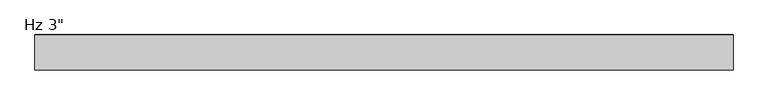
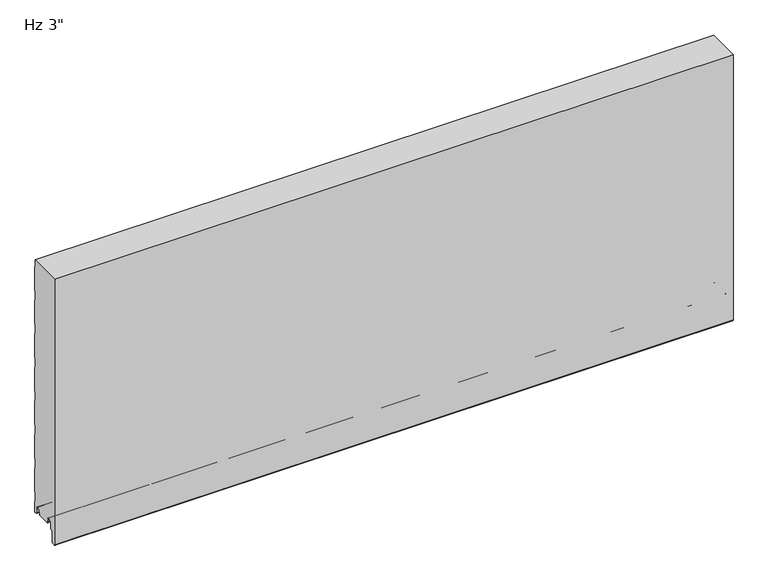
"""IFC4 building model written with IfcOpenShell, lengths in millimetres: plate geometry."""

from ifc_helpers import new_model, si_unit, frame, origin, place, context, project, spatial, polyline, circle_curve, source, transform, mapped, element, save
from ifc_brep_helpers import plane_surface, cylinder_surface, revolved_surface, advanced_brep


def plate_534590c8(model_context):
    return source(origin(), model_context, "Body", "AdvancedBrep", [
        advanced_brep(
        [(-730.0, -47.8708959, 1.0316999), (-730.0, -46.7014212, 2.2328239), (-730.0, -46.7014212, 5.9912173), (-730.0, -48.0999001, 5.9912173), (-730.0, -48.0999001, 8.6903283), (-730.0, -51.4498954, 12.0403236), (-730.0, -55.8498866, 12.0403236), (-730.0, -59.1998819, 8.6903283), (-730.0, -59.1998819, -3.1205608), (-730.0, -59.6977988, -4.3226385), (-730.0, -65.1998699, -9.8247096), (-730.0, -65.1998699, -31.9198392), (-730.0, -67.4184719, -34.5765709), (-730.0, -72.4002927, -35.0125699), (-730.0, -75.1946177, -32.4521176), (-730.0, -75.2000209, 571.2), (-730.0, -2.2002516, 571.2), (-730.0, -2.2002516, 555.8186019), (-730.0, -1.0000209, 554.4329689), (-730.0, -1.0000209, 500.3795535), (-730.0, -2.2002516, 498.9939206), (-730.0, -2.2002516, 479.6187543), (-730.0, -1.0000209, 478.2331213), (-730.0, -1.0000209, 424.1797059), (-730.0, -2.2002516, 422.794073), (-730.0, -2.2002516, 403.4189067), (-730.0, -1.0000209, 402.0332737), (-730.0, -1.0000209, 347.9798583), (-730.0, -2.2002516, 346.5942254), (-730.0, -2.2002516, 327.2190591), (-730.0, -1.0000209, 325.8334261), (-730.0, -1.0000209, 271.7800107), (-730.0, -2.2002516, 270.3943778), (-730.0, -2.2002516, 251.0192115), (-730.0, -1.0000209, 249.6335785), (-730.0, -1.0000209, 195.5801631), (-730.0, -2.2002516, 194.1945302), (-730.0, -2.2002516, 174.8193639), (-730.0, -1.0000209, 173.4337309), (-730.0, -1.0000209, 119.3803155), (-730.0, -2.2002516, 117.9946826), (-730.0, -2.2002516, 98.6195163), (-730.0, -1.0000209, 97.2338833), (-730.0, -1.0000209, 43.1804679), (-730.0, -2.2002516, 41.794835), (-730.0, -2.2002516, 22.4196687), (-730.0, -1.0000126, 21.034026), (-730.0, -1.0000126, -3.4662506), (-730.0, -5.2315599, -3.4662506), (-730.0, -7.001554, -1.6962564), (-730.0, -7.001554, 8.7237222), (-730.0, -10.3015499, 12.023718), (-730.0, -14.7015411, 12.023718), (-730.0, -18.0015368, 8.7237223), (-730.0, -18.0015368, 6.0315125), (-730.0, -19.0015314, 6.0315125), (-730.0, -19.0015314, 2.0313089), (-730.0, -18.0015401, 1.0313117), (-730.0, -19.0328517, 0.0), (-730.0, -46.839196, 0.0), (730.0, -47.8708959, 1.0316999), (730.0, -46.839196, 0.0), (730.0, -19.0328517, 0.0), (730.0, -18.0015401, 1.0313117), (730.0, -19.0015314, 2.0313089), (730.0, -19.0015314, 6.0315125), (730.0, -18.0015368, 6.0315125), (730.0, -18.0015368, 8.7237223), (730.0, -14.7015411, 12.023718), (730.0, -10.3015499, 12.023718), (730.0, -7.001554, 8.7237222), (730.0, -7.001554, -1.6962564), (730.0, -5.2315599, -3.4662506), (730.0, -1.0000126, -3.4662506), (730.0, -1.0000126, 21.034026), (730.0, -2.2002516, 22.4196687), (730.0, -2.2002516, 41.794835), (730.0, -1.0000209, 43.1804679), (730.0, -1.0000209, 97.2338833), (730.0, -2.2002516, 98.6195163), (730.0, -2.2002516, 117.9946826), (730.0, -1.0000209, 119.3803155), (730.0, -1.0000209, 173.4337309), (730.0, -2.2002516, 174.8193639), (730.0, -2.2002516, 194.1945302), (730.0, -1.0000209, 195.5801631), (730.0, -1.0000209, 249.6335785), (730.0, -2.2002516, 251.0192115), (730.0, -2.2002516, 270.3943778), (730.0, -1.0000209, 271.7800107), (730.0, -1.0000209, 325.8334261), (730.0, -2.2002516, 327.2190591), (730.0, -2.2002516, 346.5942254), (730.0, -1.0000209, 347.9798583), (730.0, -1.0000209, 402.0332737), (730.0, -2.2002516, 403.4189067), (730.0, -2.2002516, 422.794073), (730.0, -1.0000209, 424.1797059), (730.0, -1.0000209, 478.2331213), (730.0, -2.2002516, 479.6187543), (730.0, -2.2002516, 498.9939206), (730.0, -1.0000209, 500.3795535), (730.0, -1.0000209, 554.4329689), (730.0, -2.2002516, 555.8186019), (730.0, -2.2002516, 571.2), (730.0, -75.2000209, 571.2), (730.0, -75.2000209, -32.4521176), (730.0, -72.4002927, -35.0125699), (730.0, -67.4184719, -34.5765709), (730.0, -65.1998699, -31.9198392), (730.0, -65.1998699, -9.8247096), (730.0, -59.6977988, -4.3226385), (730.0, -59.1998819, -3.1205608), (730.0, -59.1998819, 8.6903283), (730.0, -55.8498866, 12.0403236), (730.0, -51.4498954, 12.0403236), (730.0, -48.0999001, 8.6903283), (730.0, -48.0999001, 5.9912173), (730.0, -46.7014212, 5.9912173), (730.0, -46.7014212, 2.2328239)],
        [
            (0, 1, circle_curve(frame((-730.0, -47.9014178, 2.2313092), z_axis=(1.0, 0.0, 0.0), x_axis=(0.0, 0.0, -1.0)), 1.1999976)),
            (1, 2),
            (2, 3),
            (3, 4),
            (4, 5, circle_curve(frame((-730.0, -51.4498954, 8.6903283), z_axis=(1.0, 0.0, 0.0), x_axis=(0.0, 0.0, -1.0)), 3.3499953)),
            (5, 6),
            (6, 7, circle_curve(frame((-730.0, -55.8498866, 8.6903283), z_axis=(1.0, 0.0, 0.0), x_axis=(0.0, 0.0, -1.0)), 3.3499953)),
            (7, 8),
            (8, 9, circle_curve(frame((-730.0, -60.8998765, -3.1205608), z_axis=(-1.0, 0.0, 0.0), x_axis=(0.0, 0.0, -1.0)), 1.6999946)),
            (9, 10),
            (10, 11),
            (11, 12, circle_curve(frame((-730.0, -67.8998625, -31.9198392), z_axis=(-1.0, 0.0, 0.0), x_axis=(0.0, 0.0, -1.0)), 2.6999926)),
            (12, 13),
            (13, 14, circle_curve(frame((-730.0, -72.6243784, -32.4521176), z_axis=(-1.0, 0.0, 0.0), x_axis=(0.0, 0.0, -1.0)), 2.5702393)),
            (14, 15),
            (15, 16),
            (16, 17),
            (17, 18),
            (18, 19),
            (19, 20),
            (20, 21),
            (21, 22),
            (22, 23),
            (23, 24),
            (24, 25),
            (25, 26),
            (26, 27),
            (27, 28),
            (28, 29),
            (29, 30),
            (30, 31),
            (31, 32),
            (32, 33),
            (33, 34),
            (34, 35),
            (35, 36),
            (36, 37),
            (37, 38),
            (38, 39),
            (39, 40),
            (40, 41),
            (41, 42),
            (42, 43),
            (43, 44),
            (44, 45),
            (45, 46),
            (46, 47),
            (47, 48),
            (48, 49, circle_curve(frame((-730.0, -5.2315599, -1.6962564), z_axis=(-1.0, 0.0, 0.0), x_axis=(0.0, 0.0, 1.0)), 1.7699942)),
            (49, 50),
            (50, 51, circle_curve(frame((-730.0, -10.3015499, 8.7237222), z_axis=(1.0, 0.0, 0.0), x_axis=(0.0, 0.0, 1.0)), 3.2999959)),
            (51, 52),
            (52, 53, circle_curve(frame((-730.0, -14.7015411, 8.7237223), z_axis=(1.0, 0.0, 0.0), x_axis=(0.0, 0.0, 1.0)), 3.2999957)),
            (53, 54),
            (54, 55),
            (55, 56),
            (56, 57, circle_curve(frame((-730.0, -18.0015342, 2.0313089), z_axis=(1.0, 0.0, 0.0), x_axis=(0.0, 0.0, 1.0)), 0.9999972)),
            (57, 58),
            (58, 59),
            (59, 0),
            (60, 61),
            (61, 62),
            (62, 63),
            (63, 64, circle_curve(frame((730.0, -18.0015342, 2.0313089), z_axis=(-1.0, 0.0, 0.0), x_axis=(0.0, 0.0, 1.0)), 0.9999972)),
            (64, 65),
            (65, 66),
            (66, 67),
            (67, 68, circle_curve(frame((730.0, -14.7015411, 8.7237223), z_axis=(-1.0, 0.0, 0.0), x_axis=(0.0, 0.0, 1.0)), 3.2999957)),
            (68, 69),
            (69, 70, circle_curve(frame((730.0, -10.3015499, 8.7237222), z_axis=(-1.0, 0.0, 0.0), x_axis=(0.0, 0.0, 1.0)), 3.2999959)),
            (70, 71),
            (71, 72, circle_curve(frame((730.0, -5.2315599, -1.6962564), z_axis=(1.0, 0.0, 0.0), x_axis=(0.0, 0.0, 1.0)), 1.7699942)),
            (72, 73),
            (73, 74),
            (74, 75),
            (75, 76),
            (76, 77),
            (77, 78),
            (78, 79),
            (79, 80),
            (80, 81),
            (81, 82),
            (82, 83),
            (83, 84),
            (84, 85),
            (85, 86),
            (86, 87),
            (87, 88),
            (88, 89),
            (89, 90),
            (90, 91),
            (91, 92),
            (92, 93),
            (93, 94),
            (94, 95),
            (95, 96),
            (96, 97),
            (97, 98),
            (98, 99),
            (99, 100),
            (100, 101),
            (101, 102),
            (102, 103),
            (103, 104),
            (104, 105),
            (105, 106),
            (106, 107, circle_curve(frame((730.0, -72.6243784, -32.4521176), z_axis=(1.0, 0.0, 0.0), x_axis=(0.0, 0.0, -1.0)), 2.5702393)),
            (107, 108),
            (108, 109, circle_curve(frame((730.0, -67.8998625, -31.9198392), z_axis=(1.0, 0.0, 0.0), x_axis=(0.0, 0.0, -1.0)), 2.6999926)),
            (109, 110),
            (110, 111),
            (111, 112, circle_curve(frame((730.0, -60.8998765, -3.1205608), z_axis=(1.0, 0.0, 0.0), x_axis=(0.0, 0.0, -1.0)), 1.6999946)),
            (112, 113),
            (113, 114, circle_curve(frame((730.0, -55.8498866, 8.6903283), z_axis=(-1.0, 0.0, 0.0), x_axis=(0.0, 0.0, -1.0)), 3.3499953)),
            (114, 115),
            (115, 116, circle_curve(frame((730.0, -51.4498954, 8.6903283), z_axis=(-1.0, 0.0, 0.0), x_axis=(0.0, 0.0, -1.0)), 3.3499953)),
            (116, 117),
            (117, 118),
            (118, 119),
            (119, 60, circle_curve(frame((730.0, -47.9014178, 2.2313092), z_axis=(-1.0, 0.0, 0.0), x_axis=(0.0, 0.0, -1.0)), 1.1999976)),
            (59, 61),
            (60, 0),
            (58, 62),
            (105, 15),
            (14, 106),
            (13, 107),
            (12, 108),
            (11, 109),
            (10, 110),
            (9, 111),
            (8, 112),
            (7, 113),
            (6, 114),
            (5, 115),
            (4, 116),
            (3, 117),
            (2, 118),
            (1, 119),
            (104, 16),
            (57, 63),
            (56, 64),
            (55, 65),
            (54, 66),
            (53, 67),
            (52, 68),
            (51, 69),
            (50, 70),
            (49, 71),
            (48, 72),
            (47, 73),
            (46, 74),
            (45, 75),
            (44, 76),
            (43, 77),
            (42, 78),
            (41, 79),
            (40, 80),
            (39, 81),
            (38, 82),
            (37, 83),
            (36, 84),
            (35, 85),
            (34, 86),
            (33, 87),
            (32, 88),
            (31, 89),
            (30, 90),
            (29, 91),
            (28, 92),
            (27, 93),
            (26, 94),
            (25, 95),
            (24, 96),
            (23, 97),
            (22, 98),
            (21, 99),
            (20, 100),
            (19, 101),
            (18, 102),
            (17, 103),
        ],
        [
            plane_surface(frame((-730.0, -75.2000209, 457.2), z_axis=(-1.0, 0.0, 0.0), x_axis=(0.0, -1.0, 0.0))),
            plane_surface(frame((730.0, -75.2000209, 457.2), z_axis=(1.0, 0.0, 0.0), x_axis=(0.0, -1.0, 0.0))),
            plane_surface(frame((-730.0, -47.8708959, 1.0316999), z_axis=(0.0, -0.7071067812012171, -0.707106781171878), x_axis=(1.0, 0.0, 0.0))),
            plane_surface(frame((-730.0, -46.839196, 0.0), z_axis=(0.0, 0.0, -1.0), x_axis=(1.0, 0.0, 0.0))),
            plane_surface(frame((-730.0, -75.2000209, 865.915622), z_axis=(0.0, -1.0, 0.0), x_axis=(1.0, 0.0, 0.0))),
            cylinder_surface(frame((-730.0, -72.6243784, -32.4521176), z_axis=(-1.0, 0.0, 0.0), x_axis=(0.0, 0.0, -1.0)), 2.5702393),
            plane_surface(frame((-730.0, -72.4002927, -35.0125699), z_axis=(0.0, 0.08718474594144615, -0.9961921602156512), x_axis=(1.0, 0.0, 0.0))),
            cylinder_surface(frame((-730.0, -67.8998625, -31.9198392), z_axis=(-1.0, 0.0, 0.0), x_axis=(0.0, 0.0, -1.0)), 2.6999926),
            plane_surface(frame((-730.0, -65.1998699, -31.9198392), z_axis=(0.0, 1.0, 0.0), x_axis=(1.0, 0.0, 0.0))),
            plane_surface(frame((-730.0, -65.1998699, -9.8247096), z_axis=(0.0, 0.7071067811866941, -0.707106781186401), x_axis=(1.0, 0.0, 0.0))),
            cylinder_surface(frame((-730.0, -60.8998765, -3.1205608), z_axis=(-1.0, 0.0, 0.0), x_axis=(0.0, 0.0, -1.0)), 1.6999946),
            plane_surface(frame((-730.0, -59.1998819, -3.1205608), z_axis=(0.0, 1.0, 0.0), x_axis=(1.0, 0.0, 0.0))),
            revolved_surface(polyline([(730.0, -55.8498866, 5.340332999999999), (-730.0, -55.8498866, 5.340332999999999)]), (-730.0, -55.8498866, 8.6903283), (1.0, 0.0, 0.0)),
            plane_surface(frame((-730.0, -55.8498866, 12.0403236), z_axis=(0.0, 0.0, -1.0), x_axis=(1.0, 0.0, 0.0))),
            revolved_surface(polyline([(730.0, -51.4498954, 5.340332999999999), (-730.0, -51.4498954, 5.340332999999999)]), (-730.0, -51.4498954, 8.6903283), (1.0, 0.0, 0.0)),
            plane_surface(frame((-730.0, -48.0999001, 8.6903283), z_axis=(0.0, -1.0, 0.0), x_axis=(1.0, 0.0, 0.0))),
            plane_surface(frame((-730.0, -48.0999001, 5.9912173), z_axis=(0.0, 0.0, -1.0), x_axis=(1.0, 0.0, 0.0))),
            plane_surface(frame((-730.0, -46.7014212, 5.9912173), z_axis=(0.0, -1.0, 0.0), x_axis=(1.0, 0.0, 0.0))),
            revolved_surface(polyline([(730.0, -47.9014178, 1.0313116), (-730.0, -47.9014178, 1.0313116)]), (-730.0, -47.9014178, 2.2313092), (1.0, 0.0, 0.0)),
            plane_surface(frame((730.0, 9.9999791, 571.2), z_axis=(0.0, 0.0, 1.0), x_axis=(-1.0, 0.0, 0.0))),
            plane_surface(frame((-730.0, -19.0328517, 0.0), z_axis=(0.0, 0.7071067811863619, -0.7071067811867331), x_axis=(1.0, 0.0, 0.0))),
            revolved_surface(polyline([(730.0, -18.0015342, 3.0313061), (-730.0, -18.0015342, 3.0313061)]), (-730.0, -18.0015342, 2.0313089), (1.0, 0.0, 0.0)),
            plane_surface(frame((-730.0, -19.0015314, 2.0313089), z_axis=(0.0, 1.0, 0.0), x_axis=(1.0, 0.0, 0.0))),
            plane_surface(frame((-730.0, -19.0015314, 6.0315125), z_axis=(0.0, 0.0, -1.0), x_axis=(1.0, 0.0, 0.0))),
            plane_surface(frame((-730.0, -18.0015368, 6.0315125), z_axis=(0.0, 1.0, 0.0), x_axis=(1.0, 0.0, 0.0))),
            revolved_surface(polyline([(730.0, -14.7015411, 12.023718), (-730.0, -14.7015411, 12.023718)]), (-730.0, -14.7015411, 8.7237223), (1.0, 0.0, 0.0)),
            plane_surface(frame((-730.0, -14.7015411, 12.023718), z_axis=(0.0, 0.0, -1.0), x_axis=(1.0, 0.0, 0.0))),
            revolved_surface(polyline([(730.0, -10.3015499, 12.0237181), (-730.0, -10.3015499, 12.0237181)]), (-730.0, -10.3015499, 8.7237222), (1.0, 0.0, 0.0)),
            plane_surface(frame((-730.0, -7.001554, 8.7237222), z_axis=(0.0, -1.0, 0.0), x_axis=(1.0, 0.0, 0.0))),
            cylinder_surface(frame((-730.0, -5.2315599, -1.6962564), z_axis=(-1.0, 0.0, 0.0), x_axis=(0.0, 0.0, 1.0)), 1.7699942),
            plane_surface(frame((-730.0, -5.2315599, -3.4662506), z_axis=(0.0, 0.0, -1.0), x_axis=(1.0, 0.0, 0.0))),
            plane_surface(frame((-730.0, -1.0000126, -3.4662506), z_axis=(0.0, 1.0, 0.0), x_axis=(1.0, 0.0, 0.0))),
            plane_surface(frame((-730.0, -1.0000126, 21.034026), z_axis=(0.0, 0.7558648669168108, 0.6547276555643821), x_axis=(1.0, 0.0, 0.0))),
            plane_surface(frame((-730.0, -2.2002516, 22.4196687), z_axis=(0.0, 1.0, 0.0), x_axis=(1.0, 0.0, 0.0))),
            plane_surface(frame((-730.0, -2.2002516, 41.794835), z_axis=(0.0, 0.7558648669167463, -0.6547276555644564), x_axis=(1.0, 0.0, 0.0))),
            plane_surface(frame((-730.0, -1.0000209, 43.1804679), z_axis=(0.0, 1.0, 0.0), x_axis=(1.0, 0.0, 0.0))),
            plane_surface(frame((-730.0, -1.0000209, 97.2338833), z_axis=(0.0, 0.7558648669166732, 0.6547276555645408), x_axis=(1.0, 0.0, 0.0))),
            plane_surface(frame((-730.0, -2.2002516, 98.6195163), z_axis=(0.0, 1.0, 0.0), x_axis=(1.0, 0.0, 0.0))),
            plane_surface(frame((-730.0, -2.2002516, 117.9946826), z_axis=(0.0, 0.7558648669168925, -0.6547276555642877), x_axis=(1.0, 0.0, 0.0))),
            plane_surface(frame((-730.0, -1.0000209, 119.3803155), z_axis=(0.0, 1.0, 0.0), x_axis=(1.0, 0.0, 0.0))),
            plane_surface(frame((-730.0, -1.0000209, 173.4337309), z_axis=(0.0, 0.7558648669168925, 0.6547276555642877), x_axis=(1.0, 0.0, 0.0))),
            plane_surface(frame((-730.0, -2.2002516, 174.8193639), z_axis=(0.0, 1.0, 0.0), x_axis=(1.0, 0.0, 0.0))),
            plane_surface(frame((-730.0, -2.2002516, 194.1945302), z_axis=(0.0, 0.7558648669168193, -0.6547276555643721), x_axis=(1.0, 0.0, 0.0))),
            plane_surface(frame((-730.0, -1.0000209, 195.5801631), z_axis=(0.0, 1.0, 0.0), x_axis=(1.0, 0.0, 0.0))),
            plane_surface(frame((-730.0, -1.0000209, 249.6335785), z_axis=(0.0, 0.7558648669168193, 0.6547276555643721), x_axis=(1.0, 0.0, 0.0))),
            plane_surface(frame((-730.0, -2.2002516, 251.0192115), z_axis=(0.0, 1.0, 0.0), x_axis=(1.0, 0.0, 0.0))),
            plane_surface(frame((-730.0, -2.2002516, 270.3943778), z_axis=(0.0, 0.7558648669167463, -0.6547276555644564), x_axis=(1.0, 0.0, 0.0))),
            plane_surface(frame((-730.0, -1.0000209, 271.7800107), z_axis=(0.0, 1.0, 0.0), x_axis=(1.0, 0.0, 0.0))),
            plane_surface(frame((-730.0, -1.0000209, 325.8334261), z_axis=(0.0, 0.7558648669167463, 0.6547276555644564), x_axis=(1.0, 0.0, 0.0))),
            plane_surface(frame((-730.0, -2.2002516, 327.2190591), z_axis=(0.0, 1.0, 0.0), x_axis=(1.0, 0.0, 0.0))),
            plane_surface(frame((-730.0, -2.2002516, 346.5942254), z_axis=(0.0, 0.7558648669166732, -0.6547276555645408), x_axis=(1.0, 0.0, 0.0))),
            plane_surface(frame((-730.0, -1.0000209, 347.9798583), z_axis=(0.0, 1.0, 0.0), x_axis=(1.0, 0.0, 0.0))),
            plane_surface(frame((-730.0, -1.0000209, 402.0332737), z_axis=(0.0, 0.7558648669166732, 0.6547276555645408), x_axis=(1.0, 0.0, 0.0))),
            plane_surface(frame((-730.0, -2.2002516, 403.4189067), z_axis=(0.0, 1.0, 0.0), x_axis=(1.0, 0.0, 0.0))),
            plane_surface(frame((-730.0, -2.2002516, 422.794073), z_axis=(0.0, 0.755864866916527, -0.6547276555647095), x_axis=(1.0, 0.0, 0.0))),
            plane_surface(frame((-730.0, -1.0000209, 424.1797059), z_axis=(0.0, 1.0, 0.0), x_axis=(1.0, 0.0, 0.0))),
            plane_surface(frame((-730.0, -1.0000209, 478.2331213), z_axis=(0.0, 0.755864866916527, 0.6547276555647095), x_axis=(1.0, 0.0, 0.0))),
            plane_surface(frame((-730.0, -2.2002516, 479.6187543), z_axis=(0.0, 1.0, 0.0), x_axis=(1.0, 0.0, 0.0))),
            plane_surface(frame((-730.0, -2.2002516, 498.9939206), z_axis=(0.0, 0.755864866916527, -0.6547276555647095), x_axis=(1.0, 0.0, 0.0))),
            plane_surface(frame((-730.0, -1.0000209, 500.3795535), z_axis=(0.0, 1.0, 0.0), x_axis=(1.0, 0.0, 0.0))),
            plane_surface(frame((-730.0, -1.0000209, 554.4329689), z_axis=(0.0, 0.755864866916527, 0.6547276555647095), x_axis=(1.0, 0.0, 0.0))),
            plane_surface(frame((-730.0, -2.2002516, 555.8186019), z_axis=(0.0, 1.0, 0.0), x_axis=(1.0, 0.0, 0.0))),
        ],
        [
            (0, [[1, 2, 3, 4, 5, 6, 7, 8, 9, 10, 11, 12, 13, 14, 15, 16, 17, 18, 19, 20, 21, 22, 23, 24, 25, 26, 27, 28, 29, 30, 31, 32, 33, 34, 35, 36, 37, 38, 39, 40, 41, 42, 43, 44, 45, 46, 47, 48, 49, 50, 51, 52, 53, 54, 55, 56, 57, 58, 59, 60]]),
            (1, [[61, 62, 63, 64, 65, 66, 67, 68, 69, 70, 71, 72, 73, 74, 75, 76, 77, 78, 79, 80, 81, 82, 83, 84, 85, 86, 87, 88, 89, 90, 91, 92, 93, 94, 95, 96, 97, 98, 99, 100, 101, 102, 103, 104, 105, 106, 107, 108, 109, 110, 111, 112, 113, 114, 115, 116, 117, 118, 119, 120]]),
            (2, [[121, -61, 122, -60]]),
            (3, [[-59, 123, -62, -121]]),
            (4, [[-106, 124, -15, 125]]),
            (5, [[126, -107, -125, -14]]),
            (6, [[127, -108, -126, -13]]),
            (7, [[128, -109, -127, -12]]),
            (8, [[129, -110, -128, -11]]),
            (9, [[130, -111, -129, -10]]),
            (10, [[131, -112, -130, -9]]),
            (11, [[132, -113, -131, -8]]),
            (12, [[133, -114, -132, -7]]),
            (13, [[134, -115, -133, -6]]),
            (14, [[135, -116, -134, -5]]),
            (15, [[136, -117, -135, -4]]),
            (16, [[137, -118, -136, -3]]),
            (17, [[138, -119, -137, -2]]),
            (18, [[-122, -120, -138, -1]]),
            (19, [[-124, -105, 139, -16]]),
            (20, [[140, -63, -123, -58]]),
            (21, [[141, -64, -140, -57]]),
            (22, [[142, -65, -141, -56]]),
            (23, [[143, -66, -142, -55]]),
            (24, [[144, -67, -143, -54]]),
            (25, [[145, -68, -144, -53]]),
            (26, [[146, -69, -145, -52]]),
            (27, [[147, -70, -146, -51]]),
            (28, [[148, -71, -147, -50]]),
            (29, [[149, -72, -148, -49]]),
            (30, [[150, -73, -149, -48]]),
            (31, [[151, -74, -150, -47]]),
            (32, [[152, -75, -151, -46]]),
            (33, [[153, -76, -152, -45]]),
            (34, [[154, -77, -153, -44]]),
            (35, [[155, -78, -154, -43]]),
            (36, [[156, -79, -155, -42]]),
            (37, [[157, -80, -156, -41]]),
            (38, [[158, -81, -157, -40]]),
            (39, [[159, -82, -158, -39]]),
            (40, [[160, -83, -159, -38]]),
            (41, [[161, -84, -160, -37]]),
            (42, [[162, -85, -161, -36]]),
            (43, [[163, -86, -162, -35]]),
            (44, [[164, -87, -163, -34]]),
            (45, [[165, -88, -164, -33]]),
            (46, [[166, -89, -165, -32]]),
            (47, [[167, -90, -166, -31]]),
            (48, [[168, -91, -167, -30]]),
            (49, [[169, -92, -168, -29]]),
            (50, [[170, -93, -169, -28]]),
            (51, [[171, -94, -170, -27]]),
            (52, [[172, -95, -171, -26]]),
            (53, [[173, -96, -172, -25]]),
            (54, [[174, -97, -173, -24]]),
            (55, [[175, -98, -174, -23]]),
            (56, [[176, -99, -175, -22]]),
            (57, [[177, -100, -176, -21]]),
            (58, [[178, -101, -177, -20]]),
            (59, [[179, -102, -178, -19]]),
            (60, [[180, -103, -179, -18]]),
            (61, [[-17, -139, -104, -180]]),
        ],
    ),
    ])


if __name__ == "__main__":
    model = new_model("IFC4")
    model_context = context("Model", 3, world=origin())
    ifc_project = project(units=[si_unit("LENGTHUNIT", "METRE", prefix="MILLI")], contexts=[model_context])
    site = spatial("IfcSite", under=ifc_project)
    building = spatial("IfcBuilding", under=site)
    placement = place(None, origin())
    plate_shape = plate_534590c8(model_context)
    element("IfcPlate", 1, ObjectType="KIP-36-Karrier-KP-R19-CP-Hz-FL3-8in_SL : Hz 3\"", at=placement, inside=building, context=model_context, shape_type="MappedRepresentation", body=[
        mapped(plate_shape, transform((0.0, 0.0, 0.0), x_axis=(1.0, 0.0, 0.0), y_axis=(0.0, 1.0, 0.0), z_axis=(0.0, 0.0, 1.0))),
    ])
    save(model, "model.ifc")
